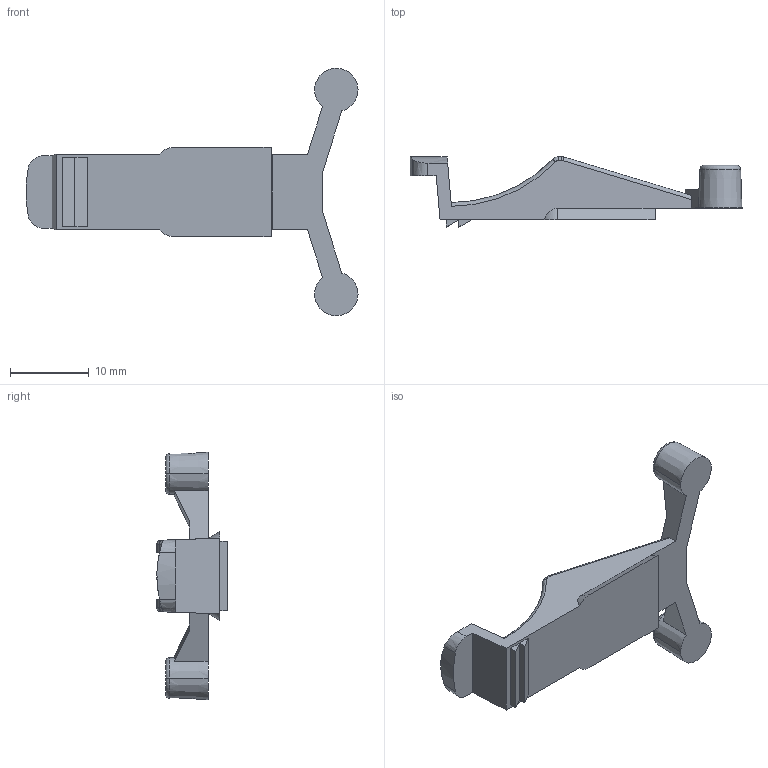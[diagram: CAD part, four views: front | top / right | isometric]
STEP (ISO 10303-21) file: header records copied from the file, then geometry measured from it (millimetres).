
FILE_DESCRIPTION (( 'STEP AP203' ), '1' );
FILE_NAME ('A-53.STEP', '2022-12-16T11:07:24', ( '' ), ( '' ), 'SwSTEP 2.0', 'SolidWorks 2021', '' );
FILE_SCHEMA (( 'CONFIG_CONTROL_DESIGN' ));
Length unit declared in the file: millimetre
Products named in the file (1): A-53
Bounding box: 42.11 x 8.92 x 31.4 mm (x, y, z)
Volume: 1457 mm3; surface area: 1771.8 mm2
Topology: 1 solids, 1 shells, 66 faces, 169 edges, 106 vertices
Faces by surface type: plane 36, cylinder 13, bspline 8, cone 5, torus 4
Entity records: 2190 total; most frequent: CARTESIAN_POINT 638, ORIENTED_EDGE 338, DIRECTION 272, EDGE_CURVE 169, VERTEX_POINT 106, VECTOR 100, LINE 100, AXIS2_PLACEMENT_3D 86
